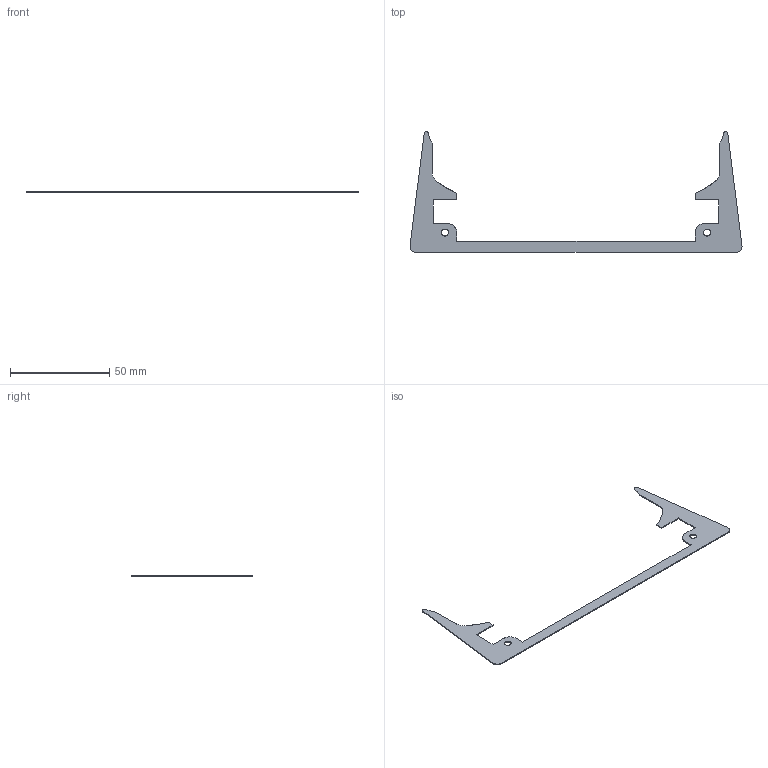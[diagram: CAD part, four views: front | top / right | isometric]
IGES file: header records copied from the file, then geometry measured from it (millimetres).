
Global section: file name: C:\Users\holy\Desktop\KRC5FH\GRIP-DATA\GRIP-2\GRIP-2-IGES\GRIP-2-Spacer.igs; native system: Rhinoceros ( Aug 10 2015 ); preprocessor: Trout Lake IGES 012 Aug 10 2015; date: 151029.082954; units: millimetre
Bounding box: 167.2 x 60.85 x 0.5 mm (x, y, z)
Surface area: 4485.3 mm2 (no closed solid volume)
Topology: 0 solids, 0 shells, 30 faces, 186 edges, 184 vertices
Faces by surface type: bspline 30
